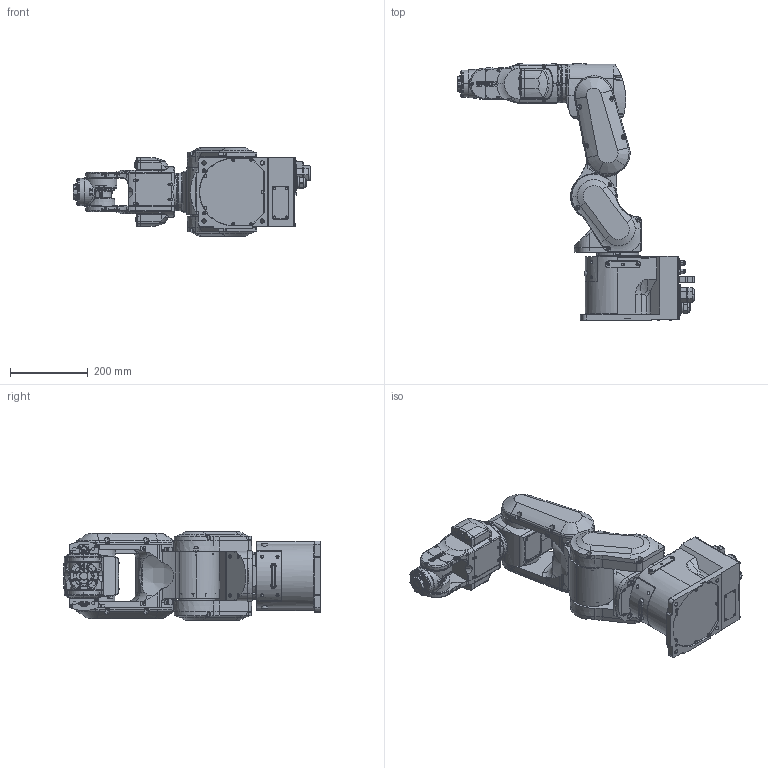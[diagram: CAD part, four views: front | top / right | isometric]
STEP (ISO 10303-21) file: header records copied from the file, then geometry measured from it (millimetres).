
FILE_DESCRIPTION (( 'STEP AP214' ), '1' );
FILE_NAME ('CX4-x601S.STEP', '2026-07-23T17:41:59', ( '' ), ( '' ), 'SwSTEP 2.0', 'SolidWorks 2020', '' );
FILE_SCHEMA (( 'AUTOMOTIVE_DESIGN' ));
Length unit declared in the file: millimetre
Products named in the file (8): CX4-A601S_J2; CX4-A601S_J4; CX4-A601S_J5; CX4-A601S_J3; CX4-A601S_BASE; CX4-A601S_J1; CX4-A601S_J6; CX4-x601S
Assembly tree (7 placements, depth 2):
  CX4-x601S
    CX4-A601S_BASE
    CX4-A601S_J1
    CX4-A601S_J2
    CX4-A601S_J3
    CX4-A601S_J4
    CX4-A601S_J5
    CX4-A601S_J6
Bounding box: 613 x 662 x 228 mm (x, y, z)
Volume: 9409374.7 mm3; surface area: 1035012.1 mm2
Topology: 5 solids, 8 shells, 3972 faces, 10007 edges, 6246 vertices
Faces by surface type: plane 1478, cylinder 1344, cone 708, torus 310, sphere 70, bspline 62
Entity records: 178829 total; most frequent: CARTESIAN_POINT 70696, ORIENTED_EDGE 19696, DIRECTION 15672, EDGE_CURVE 9855, AXIS2_PLACEMENT_3D 6385, VERTEX_POINT 6246, B_SPLINE_CURVE_WITH_KNOTS 4472, EDGE_LOOP 4350
